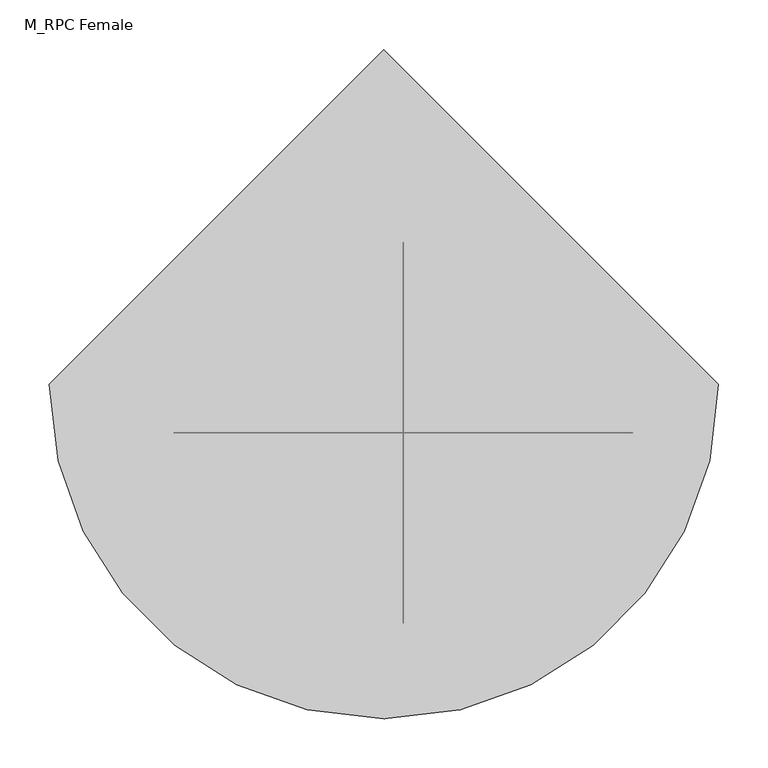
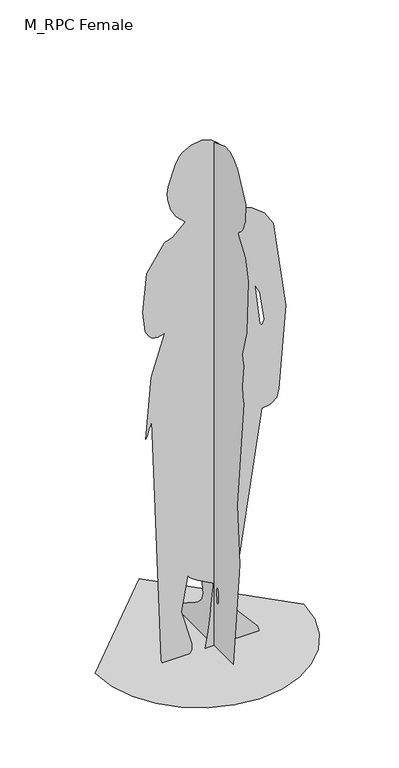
"""IFC4 building model written with IfcOpenShell, lengths in millimetres: proxy geometry, M_RPC Female : YinYin."""

from ifc_helpers import new_model, si_unit, origin, place, context, project, spatial, triangles, source, transform, mapped, element, save


def m_rpc_female_2a7e0e44(model_context):
    return source(origin(), model_context, "Body", "Tessellation", [
        triangles([(19.5612288, -62.516115, 200.054177), (19.5612288, -65.6147495, 206.6420561), (19.5612288, -67.0928433, 208.6188795), (19.5612265, -68.5512254, 210.1580661), (19.5612265, -69.844524, 211.0626257), (19.5612265, -70.8273447, 211.135768), (19.5612265, -72.3676622, 205.9018034), (19.5612265, -74.2961918, 196.3806185), (19.5612265, -75.9136394, 184.6084991), (19.5612265, -76.5207017, 172.6210404), (19.5612265, -75.4180619, 162.4544372), (19.5612265, -71.9064394, 156.1446297), (19.5612288, -65.2864992, 155.7276494), (19.561222, -157.7734002, 0.0), (19.5612197, -193.0714818, 365.6725562), (19.5612197, -178.8732388, 562.9772644), (19.5612197, -217.6589527, 934.2117268), (19.5612197, -211.3346658, 953.6969473), (19.5612197, -209.2266004, 990.3578636), (19.5612197, -217.6589527, 1061.6503143), (19.5612197, -210.505792, 1080.5146425), (19.5612197, -208.859072, 1098.4551172), (19.5612174, -232.5499224, 1186.4916767), (19.5612174, -242.5926415, 1369.1652649), (19.5612197, -225.9702005, 1441.195752), (19.5612197, -184.4141614, 1493.8335274), (19.5612197, -184.4141614, 1502.144648), (19.5612197, -199.7089946, 1513.6221451), (19.5612197, -211.0344297, 1528.1208241), (19.5612197, -224.1337755, 1563.6801361), (19.5612197, -228.7406891, 1624.0425854), (19.5612197, -183.90509, 1715.3903526), (19.561222, -164.1470301, 1737.5990261), (19.561222, -139.3701631, 1750.94981), (19.5612242, -108.0070247, 1752.6), (19.5612288, -48.1992019, 1729.3935677), (19.5612288, -20.4396227, 1708.5970173), (19.5612288, -13.3298936, 1699.5173389), (19.5612288, -7.8875699, 1689.0607098), (19.5612288, -0.7000028, 1662.8370197), (19.5612288, -20.3543195, 1513.0532845), (19.5612288, -18.6669849, 1499.3218552), (19.5612288, 11.1308794, 1439.5698338), (19.5612311, 14.5355749, 1426.8243908), (19.5612288, 1.7224977, 1354.8805264), (19.5612311, 31.6774996, 1150.3032606), (19.5612333, 48.2999633, 1147.5328629), (19.5612333, 62.8445879, 962.6950172), (19.5612356, 95.3969115, 840.0179123), (19.5612356, 94.2716259, 840.4783493), (19.5612356, 92.0029507, 841.6656315), (19.5612356, 89.0270695, 843.2890789), (19.5612356, 85.780102, 845.057939), (19.5612356, 82.698268, 846.6813864), (19.5612356, 80.2176599, 847.8687412), (19.5612356, 78.7744431, 848.3291056), (19.5612379, 129.4411089, 519.2575856), (19.5612356, 115.741936, 386.017608), (19.5612356, 111.0111655, 373.0374773), (19.5612333, 46.365393, 289.3376807), (19.5612311, 27.5485274, 242.7219941), (19.5612288, 11.1591606, 141.8756606), (19.5612311, 19.6101607, 117.1299145), (19.5612311, 40.4985227, 95.464113), (19.5612333, 68.4630586, 75.9257889), (19.5612356, 98.1425106, 57.5627155), (19.5612379, 124.1758143, 39.4220441), (19.5612379, 141.2016192, 20.5520522), (19.5612379, 143.8588244, 0.0), (183.0152098, -49.3669449, 1064.4207121), (167.6047769, -49.3669449, 1163.5493271), (152.5406528, -49.3669449, 1194.6297701), (168.2882199, -49.3669449, 1056.0085802), (175.1435972, -49.3669449, 1046.9906713), (-8.6639288, -49.3669495, 0.0), (-3.1500451, -49.3669495, 32.2482746), (2.0823084, -49.3669495, 69.3733591), (6.8265455, -49.3669495, 108.190362), (10.8761212, -49.3669495, 145.5140468), (14.0244233, -49.3669495, 178.1596922), (16.064901, -49.3669495, 202.9421185), (16.790965, -49.3669495, 216.6765999), (12.1870877, -49.3669495, 219.1461257), (0.3139176, -49.3669495, 225.0791757), (-15.9208339, -49.3669495, 233.4869473), (-33.6094311, -49.3669495, 243.3801843), (-49.8441732, -49.3669495, 253.770157), (-61.7173402, -49.3669495, 263.6679903), (-66.3212244, -49.3669495, 272.0846822), (-87.4455254, -49.3669495, 152.9572698), (-53.4087358, -49.3669495, 31.0045278), (-52.5813699, -49.3669495, 11.0292914), (-59.149233, -49.3669495, 0.0), (-149.3170486, -49.3669495, 0.0), (-152.8115664, -49.3669495, 10.4443548), (-182.6783299, -49.3669495, 842.7883101), (-184.325068, -49.3669495, 839.6736019), (-187.3181266, -49.3669495, 831.6521439), (-191.0743654, -49.3669495, 820.7077538), (-195.0109165, -49.3669495, 808.8246128), (-198.5445671, -49.3669495, 797.9861755), (-201.0923222, -49.3669495, 790.1768412), (-202.0711687, -49.3669495, 787.3802095), (-185.4487277, -49.3669495, 995.1605501), (-141.1222818, -49.3669495, 1130.9104036), (-164.3032524, -49.3669495, 1124.3246864), (-182.0564565, -49.3669495, 1128.1551939), (-195.0603866, -49.3669495, 1140.1605658), (-203.9935441, -49.3669495, 1158.0995871), (-213.1528324, -49.3669495, 1225.1042908), (-199.3008073, -49.3669495, 1355.3133488), (-142.1370091, -49.3669495, 1439.8141502), (-138.3519385, -49.3669495, 1443.9662224), (-126.4535278, -49.3669495, 1446.4888882), (-114.043257, -49.3669495, 1453.0155247), (-76.6084144, -49.3669495, 1487.9363583), (-74.632563, -49.3669495, 1491.0630569), (-103.0904008, -49.3669495, 1516.7510239), (-122.0980524, -49.3669495, 1548.9569069), (-131.6192644, -49.3669495, 1586.7359962), (-132.8111248, -49.3669495, 1607.4201988), (-130.0407362, -49.3669495, 1629.5832355), (-105.4423103, -49.3669495, 1701.5050083), (-96.1691935, -49.3669495, 1717.9445572), (-84.0080717, -49.3669495, 1731.1446236), (-55.2397923, -49.3669495, 1745.9405228), (-21.1277098, -49.3669495, 1752.5937504), (8.678871, -49.3669495, 1743.6800503), (33.6907601, -49.3669495, 1722.8627163), (53.4188279, -49.3669495, 1693.8054783), (75.0667116, -49.3669495, 1625.6246109), (76.0082012, -49.3669495, 1593.8278599), (45.7087471, -49.3669495, 1512.9888988), (45.9664484, -49.3669495, 1502.7510063), (52.5419328, -49.3669495, 1494.1808899), (141.4590436, -49.3669449, 1463.3590794), (183.2079669, -49.3669449, 1431.0789276), (212.1099455, -49.3669449, 1385.7065517), (252.2752991, -49.3669449, 1089.3543646), (230.371894, -49.3669449, 807.1516771), (222.5798733, -49.3669449, 783.138172), (217.6563003, -49.3669449, 776.9216183), (211.9300146, -49.3669449, 771.9938667), (205.4994478, -49.3669449, 768.2337765), (198.4631949, -49.3669449, 765.520134), (174.7039802, -49.3669449, 762.4466297), (101.5479077, -49.3669495, 280.655816), (74.363298, -49.3669495, 138.9321538), (78.7407061, -49.3669495, 117.6130336), (91.1993842, -49.3669495, 97.162465), (159.9730479, -49.3669449, 19.5097603), (166.4327009, -49.3669449, 0.0), (-339.0976521, 0.0001336, 0.0), (-330.1329741, -77.6986367, 0.0), (-304.601829, -149.0525117, 0.0), (-264.5484235, -212.0171641, 0.0), (-212.0172913, -264.548369, 0.0), (-149.0525935, -304.6016654, 0.0), (-77.6987276, -330.1329014, 0.0), (1.42e-05, -339.0975431, 0.000112), (77.6987639, -330.1329014, 0.000112), (149.052648, -304.6016654, 0.000112), (212.0172913, -264.5483145, 0.000112), (264.5485143, -212.0171641, 0.0), (304.6018108, -149.0524572, 0.0), (330.1329741, -77.6985731, 0.0), (339.0976521, 0.000162, 0.0), (-4.4e-05, 339.0977975, 0.0)], [[14, 6, 7], [14, 7, 8], [14, 8, 9], [14, 9, 10], [14, 10, 11], [48, 49, 50], [48, 50, 51], [48, 51, 52], [48, 52, 53], [48, 53, 54], [48, 54, 55], [14, 11, 12], [69, 14, 12], [69, 12, 13], [68, 69, 13], [67, 68, 13], [66, 67, 13], [65, 66, 13], [64, 65, 13], [63, 64, 13], [62, 63, 13], [48, 55, 56], [62, 13, 1], [61, 62, 1], [46, 47, 48], [61, 1, 2], [61, 2, 3], [61, 3, 4], [61, 4, 5], [6, 14, 15], [5, 6, 15], [61, 5, 15], [60, 61, 15], [60, 15, 16], [59, 60, 16], [58, 59, 16], [57, 58, 16], [56, 57, 16], [48, 56, 16], [48, 16, 17], [48, 17, 18], [46, 48, 18], [46, 18, 19], [46, 19, 20], [46, 20, 21], [46, 21, 22], [46, 22, 23], [46, 23, 24], [45, 46, 24], [45, 24, 25], [45, 25, 26], [44, 45, 26], [43, 44, 26], [42, 43, 26], [41, 42, 26], [41, 26, 27], [41, 27, 28], [41, 28, 29], [41, 29, 30], [41, 30, 31], [40, 41, 31], [40, 31, 32], [39, 40, 32], [38, 39, 32], [37, 38, 32], [36, 37, 32], [35, 36, 32], [35, 32, 33], [34, 35, 33], [70, 75, 76], [70, 76, 77], [70, 77, 78], [70, 78, 79], [70, 79, 80], [70, 80, 81], [70, 81, 82], [74, 70, 82], [102, 103, 104], [101, 102, 104], [100, 101, 104], [99, 100, 104], [98, 99, 104], [97, 98, 104], [96, 97, 104], [151, 152, 75], [74, 82, 83], [74, 83, 84], [74, 84, 85], [74, 85, 86], [74, 86, 87], [74, 87, 88], [74, 88, 89], [150, 151, 75], [149, 150, 75], [93, 94, 95], [92, 93, 95], [91, 92, 95], [90, 91, 95], [90, 95, 96], [89, 90, 96], [74, 89, 96], [74, 96, 104], [73, 74, 104], [73, 104, 105], [72, 73, 105], [148, 149, 75], [148, 75, 70], [147, 148, 70], [146, 147, 70], [145, 146, 70], [144, 145, 70], [143, 144, 70], [142, 143, 70], [141, 142, 70], [140, 141, 70], [139, 140, 70], [139, 70, 71], [139, 71, 72], [138, 139, 72], [138, 72, 105], [137, 138, 105], [136, 137, 105], [135, 136, 105], [134, 135, 105], [134, 105, 106], [134, 106, 107], [134, 107, 108], [134, 108, 109], [134, 109, 110], [134, 110, 111], [134, 111, 112], [133, 134, 112], [112, 113, 114], [133, 112, 114], [133, 114, 115], [133, 115, 116], [133, 116, 117], [133, 117, 118], [133, 118, 119], [133, 119, 120], [133, 120, 121], [133, 121, 122], [132, 133, 122], [131, 132, 122], [130, 131, 122], [129, 130, 122], [129, 122, 123], [128, 129, 123], [127, 128, 123], [126, 127, 123], [126, 123, 124], [125, 126, 124], [167, 168, 153], [166, 167, 153], [166, 153, 154], [165, 166, 154], [165, 154, 155], [165, 155, 156], [164, 165, 156], [163, 164, 156], [163, 156, 157], [163, 157, 158], [163, 158, 159], [163, 159, 160], [163, 160, 161], [163, 161, 162]], closed=False),
    ])


if __name__ == "__main__":
    model = new_model("IFC4")
    model_context = context("Model", 3, world=origin())
    ifc_project = project(units=[si_unit("LENGTHUNIT", "METRE", prefix="MILLI")], contexts=[model_context])
    site = spatial("IfcSite", under=ifc_project)
    building = spatial("IfcBuilding", under=site)
    placement = place(None, origin())
    m_rpc_female_shape = m_rpc_female_2a7e0e44(model_context)
    element("IfcBuildingElementProxy", 1, Name="M_RPC Female : YinYin", ObjectType="M_RPC Female : YinYin", at=placement, inside=building, context=model_context, shape_type="MappedRepresentation", body=[
        mapped(m_rpc_female_shape, transform((0.0, 0.0, 0.0), x_axis=(1.0, 0.0, 0.0), y_axis=(0.0, 1.0, 0.0), z_axis=(0.0, 0.0, 1.0))),
    ])
    save(model, "model.ifc")
